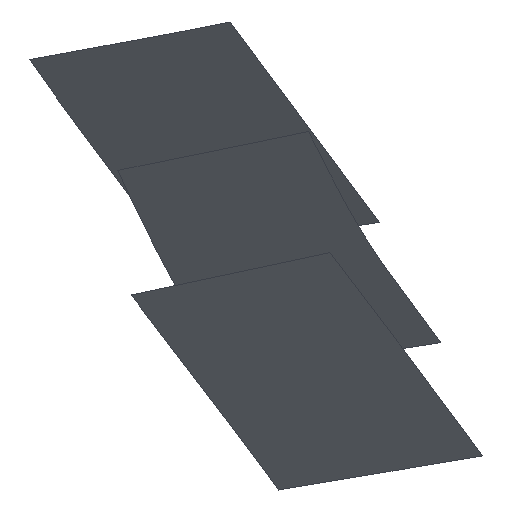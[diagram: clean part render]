
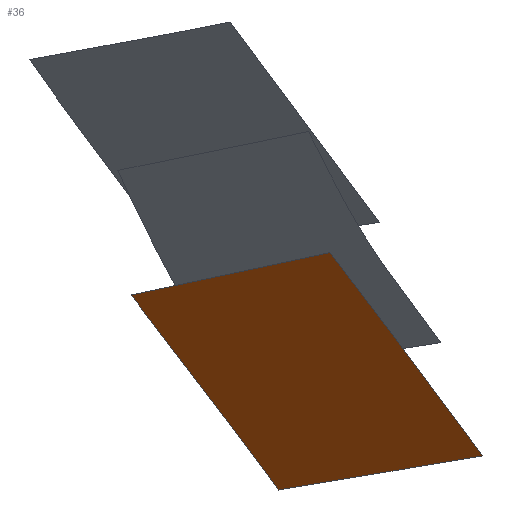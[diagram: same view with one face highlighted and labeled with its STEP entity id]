
A CAD part, top view. The second image highlights one B-rep face of the part: STEP entity #36.
In plain terms, the highlighted free-form (B-spline) face has degree [1, 1] with [2, 2] control points.
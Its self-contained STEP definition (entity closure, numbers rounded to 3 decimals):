
#36 = ADVANCED_FACE('',(#37),#50,.T.);
#37 = FACE_BOUND('',#38,.T.);
#38 = EDGE_LOOP('',(#39,#60,#74,#88,#102,#116,#130,#144,#158,#172));
#39 = ORIENTED_EDGE('',*,*,#40,.T.);
#40 = EDGE_CURVE('',#41,#43,#45,.T.);
#41 = VERTEX_POINT('',#42);
#42 = CARTESIAN_POINT('',(1091.985,-1783.33,
    1135.334));
#43 = VERTEX_POINT('',#44);
#44 = CARTESIAN_POINT('',(1090.257,-1781.007,
    1139.352));
#45 = SURFACE_CURVE('',#46,(#49),.PCURVE_S1.);
#46 = B_SPLINE_CURVE_WITH_KNOTS('',1,(#47,#48),.UNSPECIFIED.,.F.,.F.,(2,
    2),(-4.952,-0.),.PIECEWISE_BEZIER_KNOTS.);
#47 = CARTESIAN_POINT('',(1091.985,-1783.33,
    1135.334));
#48 = CARTESIAN_POINT('',(1090.257,-1781.007,
    1139.352));
#49 = PCURVE('',#50,#55);
#50 = B_SPLINE_SURFACE_WITH_KNOTS('',1,1,(
    (#51,#52)
    ,(#53,#54
    )),.UNSPECIFIED.,.F.,.F.,.F.,(2,2),(2,2),(-5.805,
    5.751),(-3.336,3.267),
  .PIECEWISE_BEZIER_KNOTS.);
#51 = CARTESIAN_POINT('',(1094.578,-1780.737,
    1137.351));
#52 = CARTESIAN_POINT('',(1090.487,-1784.828,
    1134.169));
#53 = CARTESIAN_POINT('',(1086.256,-1778.376,
    1145.015));
#54 = CARTESIAN_POINT('',(1082.166,-1782.467,
    1141.833));
#55 = DEFINITIONAL_REPRESENTATION('',(#56),#59);
#56 = B_SPLINE_CURVE_WITH_KNOTS('',1,(#57,#58),.UNSPECIFIED.,.F.,.F.,(2,
    2),(-4.952,-0.),.PIECEWISE_BEZIER_KNOTS.);
#57 = CARTESIAN_POINT('',(-5.805,0.849));
#58 = CARTESIAN_POINT('',(-1.422,-1.456));
#59 = ( GEOMETRIC_REPRESENTATION_CONTEXT(2) 
PARAMETRIC_REPRESENTATION_CONTEXT() REPRESENTATION_CONTEXT('2D SPACE',''
  ) );
#60 = ORIENTED_EDGE('',*,*,#61,.T.);
#61 = EDGE_CURVE('',#43,#62,#64,.T.);
#62 = VERTEX_POINT('',#63);
#63 = CARTESIAN_POINT('',(1090.231,-1780.973,
    1139.411));
#64 = SURFACE_CURVE('',#65,(#68),.PCURVE_S1.);
#65 = B_SPLINE_CURVE_WITH_KNOTS('',1,(#66,#67),.UNSPECIFIED.,.F.,.F.,(2,
    2),(0.,0.073),.PIECEWISE_BEZIER_KNOTS.);
#66 = CARTESIAN_POINT('',(1090.257,-1781.007,
    1139.352));
#67 = CARTESIAN_POINT('',(1090.231,-1780.973,
    1139.411));
#68 = PCURVE('',#50,#69);
#69 = DEFINITIONAL_REPRESENTATION('',(#70),#73);
#70 = B_SPLINE_CURVE_WITH_KNOTS('',1,(#71,#72),.UNSPECIFIED.,.F.,.F.,(2,
    2),(0.,0.073),.PIECEWISE_BEZIER_KNOTS.);
#71 = CARTESIAN_POINT('',(-1.422,-1.456));
#72 = CARTESIAN_POINT('',(-1.358,-1.489));
#73 = ( GEOMETRIC_REPRESENTATION_CONTEXT(2) 
PARAMETRIC_REPRESENTATION_CONTEXT() REPRESENTATION_CONTEXT('2D SPACE',''
  ) );
#74 = ORIENTED_EDGE('',*,*,#75,.T.);
#75 = EDGE_CURVE('',#62,#76,#78,.T.);
#76 = VERTEX_POINT('',#77);
#77 = CARTESIAN_POINT('',(1088.799,-1779.098,
    1142.672));
#78 = SURFACE_CURVE('',#79,(#82),.PCURVE_S1.);
#79 = B_SPLINE_CURVE_WITH_KNOTS('',1,(#80,#81),.UNSPECIFIED.,.F.,.F.,(2,
    2),(0.,4.025),.PIECEWISE_BEZIER_KNOTS.);
#80 = CARTESIAN_POINT('',(1090.231,-1780.973,
    1139.411));
#81 = CARTESIAN_POINT('',(1088.799,-1779.098,
    1142.672));
#82 = PCURVE('',#50,#83);
#83 = DEFINITIONAL_REPRESENTATION('',(#84),#87);
#84 = B_SPLINE_CURVE_WITH_KNOTS('',1,(#85,#86),.UNSPECIFIED.,.F.,.F.,(2,
    2),(0.,4.025),.PIECEWISE_BEZIER_KNOTS.);
#85 = CARTESIAN_POINT('',(-1.358,-1.489));
#86 = CARTESIAN_POINT('',(2.22,-3.336));
#87 = ( GEOMETRIC_REPRESENTATION_CONTEXT(2) 
PARAMETRIC_REPRESENTATION_CONTEXT() REPRESENTATION_CONTEXT('2D SPACE',''
  ) );
#88 = ORIENTED_EDGE('',*,*,#89,.T.);
#89 = EDGE_CURVE('',#76,#90,#92,.T.);
#90 = VERTEX_POINT('',#91);
#91 = CARTESIAN_POINT('',(1087.745,-1779.323,
    1142.949));
#92 = SURFACE_CURVE('',#93,(#96),.PCURVE_S1.);
#93 = B_SPLINE_CURVE_WITH_KNOTS('',1,(#94,#95),.UNSPECIFIED.,.F.,.F.,(2,
    2),(0.,1.113),.PIECEWISE_BEZIER_KNOTS.);
#94 = CARTESIAN_POINT('',(1088.799,-1779.098,
    1142.672));
#95 = CARTESIAN_POINT('',(1087.745,-1779.323,
    1142.949));
#96 = PCURVE('',#50,#97);
#97 = DEFINITIONAL_REPRESENTATION('',(#98),#101);
#98 = B_SPLINE_CURVE_WITH_KNOTS('',1,(#99,#100),.UNSPECIFIED.,.F.,.F.,(2
    ,2),(0.,1.113),.PIECEWISE_BEZIER_KNOTS.);
#99 = CARTESIAN_POINT('',(2.22,-3.336));
#100 = CARTESIAN_POINT('',(3.116,-2.676));
#101 = ( GEOMETRIC_REPRESENTATION_CONTEXT(2) 
PARAMETRIC_REPRESENTATION_CONTEXT() REPRESENTATION_CONTEXT('2D SPACE',''
  ) );
#102 = ORIENTED_EDGE('',*,*,#103,.T.);
#103 = EDGE_CURVE('',#90,#104,#106,.T.);
#104 = VERTEX_POINT('',#105);
#105 = CARTESIAN_POINT('',(1085.843,-1779.728,
    1143.452));
#106 = SURFACE_CURVE('',#107,(#110),.PCURVE_S1.);
#107 = B_SPLINE_CURVE_WITH_KNOTS('',1,(#108,#109),.UNSPECIFIED.,.F.,.F.,
  (2,2),(0.,2.008),.PIECEWISE_BEZIER_KNOTS.);
#108 = CARTESIAN_POINT('',(1087.745,-1779.323,
    1142.949));
#109 = CARTESIAN_POINT('',(1085.843,-1779.728,
    1143.452));
#110 = PCURVE('',#50,#111);
#111 = DEFINITIONAL_REPRESENTATION('',(#112),#115);
#112 = B_SPLINE_CURVE_WITH_KNOTS('',1,(#113,#114),.UNSPECIFIED.,.F.,.F.,
  (2,2),(0.,2.008),.PIECEWISE_BEZIER_KNOTS.);
#113 = CARTESIAN_POINT('',(3.116,-2.676));
#114 = CARTESIAN_POINT('',(4.736,-1.49));
#115 = ( GEOMETRIC_REPRESENTATION_CONTEXT(2) 
PARAMETRIC_REPRESENTATION_CONTEXT() REPRESENTATION_CONTEXT('2D SPACE',''
  ) );
#116 = ORIENTED_EDGE('',*,*,#117,.T.);
#117 = EDGE_CURVE('',#104,#118,#120,.T.);
#118 = VERTEX_POINT('',#119);
#119 = CARTESIAN_POINT('',(1084.649,-1779.984,
    1143.765));
#120 = SURFACE_CURVE('',#121,(#124),.PCURVE_S1.);
#121 = B_SPLINE_CURVE_WITH_KNOTS('',1,(#122,#123),.UNSPECIFIED.,.F.,.F.,
  (2,2),(0.,1.261),.PIECEWISE_BEZIER_KNOTS.);
#122 = CARTESIAN_POINT('',(1085.843,-1779.728,
    1143.452));
#123 = CARTESIAN_POINT('',(1084.649,-1779.984,
    1143.765));
#124 = PCURVE('',#50,#125);
#125 = DEFINITIONAL_REPRESENTATION('',(#126),#129);
#126 = B_SPLINE_CURVE_WITH_KNOTS('',1,(#127,#128),.UNSPECIFIED.,.F.,.F.,
  (2,2),(0.,1.261),.PIECEWISE_BEZIER_KNOTS.);
#127 = CARTESIAN_POINT('',(4.736,-1.49));
#128 = CARTESIAN_POINT('',(5.751,-0.742));
#129 = ( GEOMETRIC_REPRESENTATION_CONTEXT(2) 
PARAMETRIC_REPRESENTATION_CONTEXT() REPRESENTATION_CONTEXT('2D SPACE',''
  ) );
#130 = ORIENTED_EDGE('',*,*,#131,.T.);
#131 = EDGE_CURVE('',#118,#132,#134,.T.);
#132 = VERTEX_POINT('',#133);
#133 = CARTESIAN_POINT('',(1086.775,-1782.766,
    1138.924));
#134 = SURFACE_CURVE('',#135,(#138),.PCURVE_S1.);
#135 = B_SPLINE_CURVE_WITH_KNOTS('',1,(#136,#137),.UNSPECIFIED.,.F.,.F.,
  (2,2),(0.,5.974),.PIECEWISE_BEZIER_KNOTS.);
#136 = CARTESIAN_POINT('',(1084.649,-1779.984,
    1143.765));
#137 = CARTESIAN_POINT('',(1086.775,-1782.766,
    1138.924));
#138 = PCURVE('',#50,#139);
#139 = DEFINITIONAL_REPRESENTATION('',(#140),#143);
#140 = B_SPLINE_CURVE_WITH_KNOTS('',1,(#141,#142),.UNSPECIFIED.,.F.,.F.,
  (2,2),(0.,5.974),.PIECEWISE_BEZIER_KNOTS.);
#141 = CARTESIAN_POINT('',(5.751,-0.742));
#142 = CARTESIAN_POINT('',(0.442,1.998));
#143 = ( GEOMETRIC_REPRESENTATION_CONTEXT(2) 
PARAMETRIC_REPRESENTATION_CONTEXT() REPRESENTATION_CONTEXT('2D SPACE',''
  ) );
#144 = ORIENTED_EDGE('',*,*,#145,.T.);
#145 = EDGE_CURVE('',#132,#146,#148,.T.);
#146 = VERTEX_POINT('',#147);
#147 = CARTESIAN_POINT('',(1086.79,-1782.786,
    1138.889));
#148 = SURFACE_CURVE('',#149,(#152),.PCURVE_S1.);
#149 = B_SPLINE_CURVE_WITH_KNOTS('',1,(#150,#151),.UNSPECIFIED.,.F.,.F.,
  (2,2),(0.,0.042),.PIECEWISE_BEZIER_KNOTS.);
#150 = CARTESIAN_POINT('',(1086.775,-1782.766,
    1138.924));
#151 = CARTESIAN_POINT('',(1086.79,-1782.786,
    1138.889));
#152 = PCURVE('',#50,#153);
#153 = DEFINITIONAL_REPRESENTATION('',(#154),#157);
#154 = B_SPLINE_CURVE_WITH_KNOTS('',1,(#155,#156),.UNSPECIFIED.,.F.,.F.,
  (2,2),(0.,0.042),.PIECEWISE_BEZIER_KNOTS.);
#155 = CARTESIAN_POINT('',(0.442,1.998));
#156 = CARTESIAN_POINT('',(0.405,2.018));
#157 = ( GEOMETRIC_REPRESENTATION_CONTEXT(2) 
PARAMETRIC_REPRESENTATION_CONTEXT() REPRESENTATION_CONTEXT('2D SPACE',''
  ) );
#158 = ORIENTED_EDGE('',*,*,#159,.T.);
#159 = EDGE_CURVE('',#146,#160,#162,.T.);
#160 = VERTEX_POINT('',#161);
#161 = CARTESIAN_POINT('',(1087.726,-1784.044,
    1136.713));
#162 = SURFACE_CURVE('',#163,(#166),.PCURVE_S1.);
#163 = B_SPLINE_CURVE_WITH_KNOTS('',1,(#164,#165),.UNSPECIFIED.,.F.,.F.,
  (2,2),(-2.683,-0.),.PIECEWISE_BEZIER_KNOTS.);
#164 = CARTESIAN_POINT('',(1086.79,-1782.786,
    1138.889));
#165 = CARTESIAN_POINT('',(1087.726,-1784.044,
    1136.713));
#166 = PCURVE('',#50,#167);
#167 = DEFINITIONAL_REPRESENTATION('',(#168),#171);
#168 = B_SPLINE_CURVE_WITH_KNOTS('',1,(#169,#170),.UNSPECIFIED.,.F.,.F.,
  (2,2),(-2.683,-0.),.PIECEWISE_BEZIER_KNOTS.);
#169 = CARTESIAN_POINT('',(0.405,2.018));
#170 = CARTESIAN_POINT('',(-1.97,3.267));
#171 = ( GEOMETRIC_REPRESENTATION_CONTEXT(2) 
PARAMETRIC_REPRESENTATION_CONTEXT() REPRESENTATION_CONTEXT('2D SPACE',''
  ) );
#172 = ORIENTED_EDGE('',*,*,#173,.T.);
#173 = EDGE_CURVE('',#160,#41,#174,.T.);
#174 = SURFACE_CURVE('',#175,(#178),.PCURVE_S1.);
#175 = B_SPLINE_CURVE_WITH_KNOTS('',1,(#176,#177),.UNSPECIFIED.,.F.,.F.,
  (2,2),(-4.533,-0.),.PIECEWISE_BEZIER_KNOTS.);
#176 = CARTESIAN_POINT('',(1087.726,-1784.044,
    1136.713));
#177 = CARTESIAN_POINT('',(1091.985,-1783.33,
    1135.334));
#178 = PCURVE('',#50,#179);
#179 = DEFINITIONAL_REPRESENTATION('',(#180),#183);
#180 = B_SPLINE_CURVE_WITH_KNOTS('',1,(#181,#182),.UNSPECIFIED.,.F.,.F.,
  (2,2),(-4.533,-0.),.PIECEWISE_BEZIER_KNOTS.);
#181 = CARTESIAN_POINT('',(-1.97,3.267));
#182 = CARTESIAN_POINT('',(-5.805,0.849));
#183 = ( GEOMETRIC_REPRESENTATION_CONTEXT(2) 
PARAMETRIC_REPRESENTATION_CONTEXT() REPRESENTATION_CONTEXT('2D SPACE',''
  ) );
